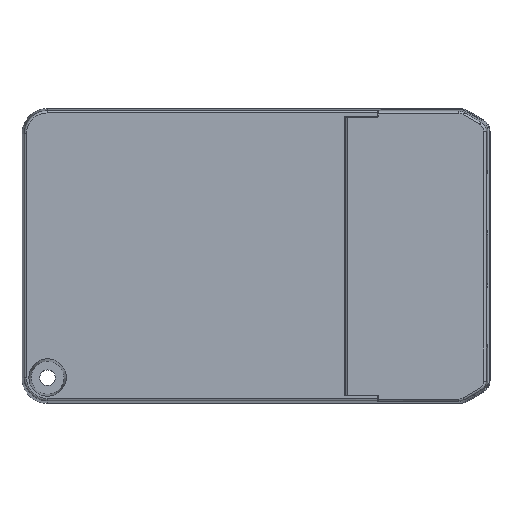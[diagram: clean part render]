
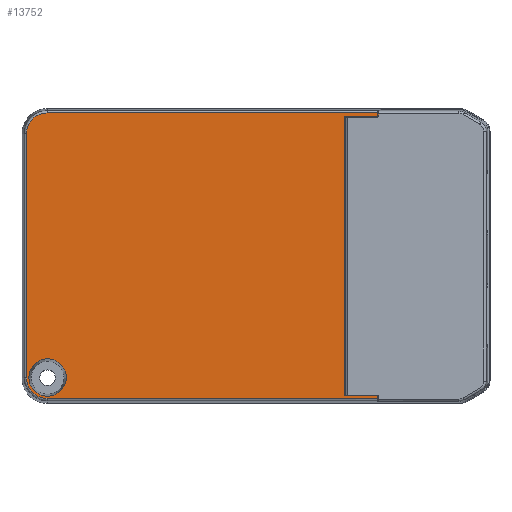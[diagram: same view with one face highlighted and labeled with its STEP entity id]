
A CAD part, top view. The second image highlights one B-rep face of the part: STEP entity #13752.
In plain terms, the highlighted planar face has unit normal (0, 0, 1).
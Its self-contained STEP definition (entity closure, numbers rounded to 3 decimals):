
#442=FACE_BOUND('',#1798,.T.);
#626=CIRCLE('',#14655,4.75);
#630=CIRCLE('',#14661,4.75);
#632=CIRCLE('',#14665,4.324);
#1024=FACE_OUTER_BOUND('',#1797,.T.);
#1797=EDGE_LOOP('',(#9647,#9648,#9649,#9650,#9651,#9652,#9653,#9654,#9655,
#9656));
#1798=EDGE_LOOP('',(#9657));
#2780=LINE('',#20181,#4310);
#2786=LINE('',#20199,#4316);
#2819=LINE('',#20283,#4349);
#2822=LINE('',#20292,#4352);
#2823=LINE('',#20303,#4353);
#2825=LINE('',#20312,#4355);
#2827=LINE('',#20315,#4357);
#2828=LINE('',#20316,#4358);
#4310=VECTOR('',#16174,10.);
#4316=VECTOR('',#16190,10.);
#4349=VECTOR('',#16289,10.);
#4352=VECTOR('',#16300,10.);
#4353=VECTOR('',#16313,10.);
#4355=VECTOR('',#16325,10.);
#4357=VECTOR('',#16329,10.);
#4358=VECTOR('',#16330,10.);
#5823=VERTEX_POINT('',#20178);
#5824=VERTEX_POINT('',#20180);
#5830=VERTEX_POINT('',#20196);
#5831=VERTEX_POINT('',#20198);
#5848=VERTEX_POINT('',#20280);
#5849=VERTEX_POINT('',#20282);
#5851=VERTEX_POINT('',#20290);
#5853=VERTEX_POINT('',#20295);
#5855=VERTEX_POINT('',#20301);
#5857=VERTEX_POINT('',#20307);
#5858=VERTEX_POINT('',#20317);
#7248=EDGE_CURVE('',#5824,#5823,#2780,.T.);
#7257=EDGE_CURVE('',#5831,#5830,#2786,.F.);
#7298=EDGE_CURVE('',#5849,#5848,#2819,.T.);
#7303=EDGE_CURVE('',#5851,#5848,#2822,.T.);
#7305=EDGE_CURVE('',#5853,#5851,#626,.T.);
#7308=EDGE_CURVE('',#5855,#5853,#2823,.T.);
#7311=EDGE_CURVE('',#5857,#5855,#630,.T.);
#7313=EDGE_CURVE('',#5824,#5857,#2825,.T.);
#7315=EDGE_CURVE('',#5823,#5831,#2827,.T.);
#7316=EDGE_CURVE('',#5830,#5849,#2828,.T.);
#7317=EDGE_CURVE('',#5858,#5858,#632,.T.);
#9647=ORIENTED_EDGE('',*,*,#7303,.F.);
#9648=ORIENTED_EDGE('',*,*,#7305,.F.);
#9649=ORIENTED_EDGE('',*,*,#7308,.F.);
#9650=ORIENTED_EDGE('',*,*,#7311,.F.);
#9651=ORIENTED_EDGE('',*,*,#7313,.F.);
#9652=ORIENTED_EDGE('',*,*,#7248,.T.);
#9653=ORIENTED_EDGE('',*,*,#7315,.T.);
#9654=ORIENTED_EDGE('',*,*,#7257,.T.);
#9655=ORIENTED_EDGE('',*,*,#7316,.T.);
#9656=ORIENTED_EDGE('',*,*,#7298,.T.);
#9657=ORIENTED_EDGE('',*,*,#7317,.T.);
#13224=PLANE('',#14664);
#13752=ADVANCED_FACE('',(#1024,#442),#13224,.T.);
#14655=AXIS2_PLACEMENT_3D('',#20297,#16305,#16306);
#14661=AXIS2_PLACEMENT_3D('',#20309,#16319,#16320);
#14664=AXIS2_PLACEMENT_3D('',#20314,#16327,#16328);
#14665=AXIS2_PLACEMENT_3D('',#20318,#16331,#16332);
#16174=DIRECTION('',(0.,1.,0.));
#16190=DIRECTION('',(0.,-1.,0.));
#16289=DIRECTION('',(0.,1.,0.));
#16300=DIRECTION('',(1.,0.,0.));
#16305=DIRECTION('center_axis',(0.,0.,-1.));
#16306=DIRECTION('ref_axis',(-0.707,0.707,0.));
#16313=DIRECTION('',(0.,1.,0.));
#16319=DIRECTION('center_axis',(0.,0.,-1.));
#16320=DIRECTION('ref_axis',(-0.707,-0.707,0.));
#16325=DIRECTION('',(-1.,0.,0.));
#16327=DIRECTION('center_axis',(0.,0.,1.));
#16328=DIRECTION('ref_axis',(1.,0.,0.));
#16329=DIRECTION('',(-1.,0.,0.));
#16330=DIRECTION('',(1.,0.,0.));
#16331=DIRECTION('center_axis',(0.,0.,-1.));
#16332=DIRECTION('ref_axis',(-1.,0.,0.));
#20178=CARTESIAN_POINT('',(28.358,-32.241,32.));
#20180=CARTESIAN_POINT('',(28.358,-32.95,32.));
#20181=CARTESIAN_POINT('',(28.358,0.,32.));
#20196=CARTESIAN_POINT('',(20.358,32.241,32.));
#20198=CARTESIAN_POINT('',(20.358,-32.241,32.));
#20199=CARTESIAN_POINT('',(20.358,16.4,32.));
#20280=CARTESIAN_POINT('',(28.358,32.95,32.));
#20282=CARTESIAN_POINT('',(28.358,32.241,32.));
#20283=CARTESIAN_POINT('',(28.358,0.,32.));
#20290=CARTESIAN_POINT('',(-48.2,32.95,32.));
#20292=CARTESIAN_POINT('',(27.,32.95,32.));
#20295=CARTESIAN_POINT('',(-52.95,28.2,32.));
#20297=CARTESIAN_POINT('Origin',(-48.2,28.2,32.));
#20301=CARTESIAN_POINT('',(-52.95,-28.2,32.));
#20303=CARTESIAN_POINT('',(-52.95,17.,32.));
#20307=CARTESIAN_POINT('',(-48.2,-32.95,32.));
#20309=CARTESIAN_POINT('Origin',(-48.2,-28.2,32.));
#20312=CARTESIAN_POINT('',(-27.,-32.95,32.));
#20314=CARTESIAN_POINT('Origin',(0.,0.,32.));
#20315=CARTESIAN_POINT('',(-27.,-32.241,32.));
#20316=CARTESIAN_POINT('',(27.,32.241,32.));
#20317=CARTESIAN_POINT('',(-43.776,-28.1,32.));
#20318=CARTESIAN_POINT('Origin',(-48.1,-28.1,32.));
